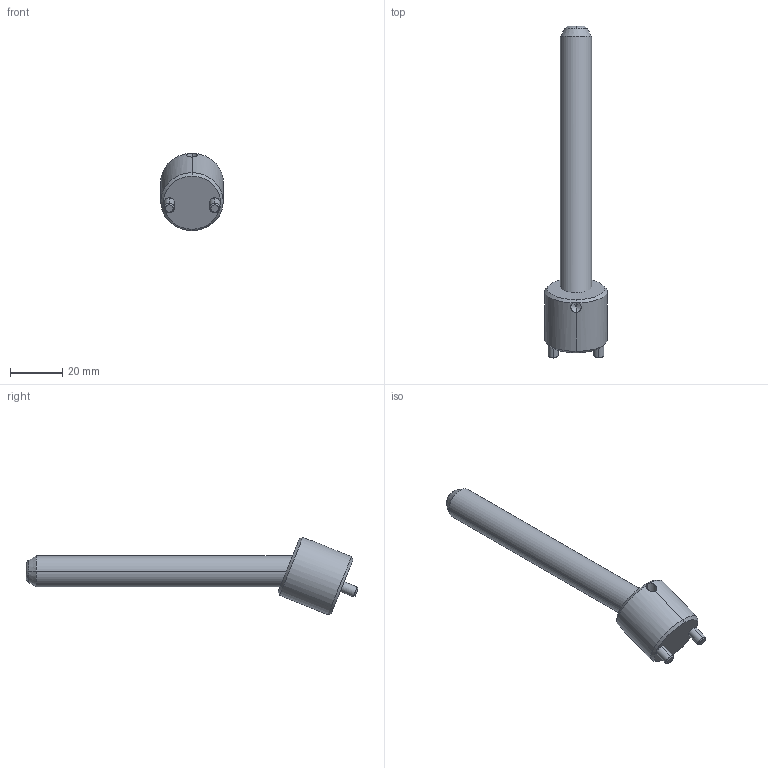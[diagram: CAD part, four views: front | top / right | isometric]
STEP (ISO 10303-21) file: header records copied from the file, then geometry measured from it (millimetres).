
FILE_DESCRIPTION (( 'STEP AP203' ), '1' );
FILE_NAME ('CI2212100.STEP', '2023-12-07T23:07:57', ( '' ), ( '' ), 'SwSTEP 2.0', 'SolidWorks 2017', '' );
FILE_SCHEMA (( 'CONFIG_CONTROL_DESIGN' ));
Length unit declared in the file: millimetre
Products named in the file (3): CI2212100; CS2212; CP12100
Assembly tree (2 placements, depth 2):
  CI2212100
    CP12100
    CS2212
Bounding box: 24 x 127.46 x 29.7 mm (x, y, z)
Volume: 21029.3 mm3; surface area: 7953 mm2
Topology: 2 solids, 2 shells, 37 faces, 81 edges, 48 vertices
Faces by surface type: cylinder 14, cone 14, plane 7, bspline 2
Entity records: 1610 total; most frequent: CARTESIAN_POINT 513, DIRECTION 181, ORIENTED_EDGE 158, EDGE_CURVE 79, AXIS2_PLACEMENT_3D 76, VERTEX_POINT 48, EDGE_LOOP 41, FACE_OUTER_BOUND 37
